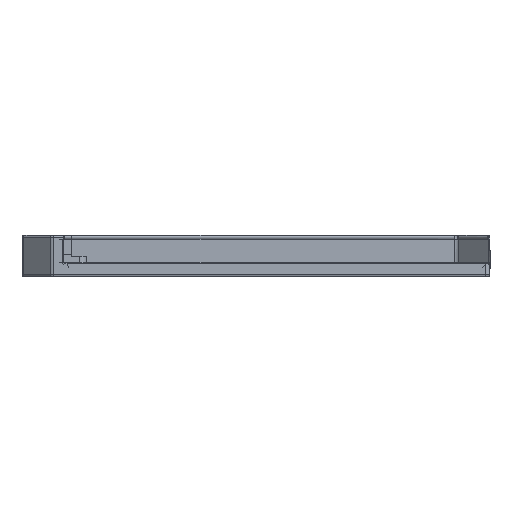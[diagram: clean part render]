
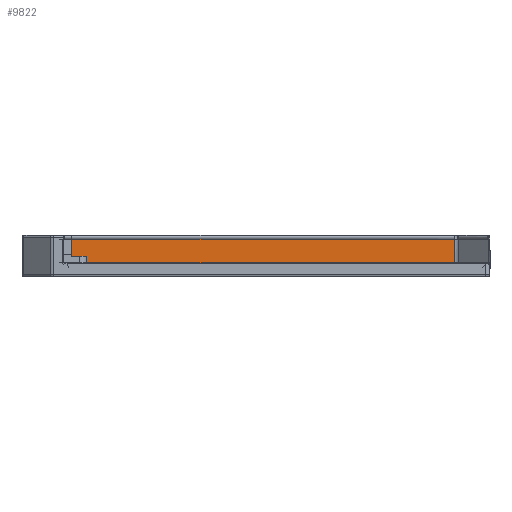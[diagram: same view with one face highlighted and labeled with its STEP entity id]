
A CAD part, left-side view. The second image highlights one B-rep face of the part: STEP entity #9822.
In plain terms, the highlighted planar face has unit normal (-1, 0, 0).
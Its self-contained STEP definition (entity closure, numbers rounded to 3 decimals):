
#2631=CARTESIAN_POINT('',(248.2,8.541,-2.583));
#2644=DIRECTION('',(0.,1.,0.));
#2645=VECTOR('',#2644,92.918);
#2646=CARTESIAN_POINT('',(248.2,8.541,-2.583));
#2647=LINE('',#2646,#2645);
#3066=DIRECTION('',(0.,1.,0.));
#3067=VECTOR('',#3066,92.918);
#3068=CARTESIAN_POINT('',(248.2,8.541,3.));
#3069=LINE('',#3068,#3067);
#3070=DIRECTION('',(0.,0.,1.));
#3071=VECTOR('',#3070,5.583);
#3072=CARTESIAN_POINT('',(248.2,101.459,-2.583));
#3073=LINE('',#3072,#3071);
#3179=DIRECTION('',(0.,0.,1.));
#3180=VECTOR('',#3179,5.583);
#3181=CARTESIAN_POINT('',(248.2,8.541,-2.583));
#3182=LINE('',#3181,#3180);
#5602=VERTEX_POINT('',#2631);
#5603=CARTESIAN_POINT('',(248.2,101.459,-2.583));
#5604=VERTEX_POINT('',#5603);
#5693=CARTESIAN_POINT('',(248.2,8.541,3.));
#5694=CARTESIAN_POINT('',(248.2,101.459,3.));
#5695=VERTEX_POINT('',#5693);
#5696=VERTEX_POINT('',#5694);
#9809=CARTESIAN_POINT('',(248.2,0.,3.));
#9810=DIRECTION('',(1.,0.,0.));
#9811=DIRECTION('',(0.,1.,0.));
#9812=AXIS2_PLACEMENT_3D('',#9809,#9810,#9811);
#9813=PLANE('',#9812);
#9815=ORIENTED_EDGE('',*,*,#9814,.F.);
#9817=ORIENTED_EDGE('',*,*,#9816,.F.);
#9818=ORIENTED_EDGE('',*,*,#9287,.T.);
#9819=ORIENTED_EDGE('',*,*,#9800,.T.);
#9820=EDGE_LOOP('',(#9815,#9817,#9818,#9819));
#9821=FACE_OUTER_BOUND('',#9820,.F.);
#9822=ADVANCED_FACE('',(#9821),#9813,.F.);
#9287=EDGE_CURVE('',#5602,#5604,#2647,.T.);
#9800=EDGE_CURVE('',#5604,#5696,#3073,.T.);
#9814=EDGE_CURVE('',#5695,#5696,#3069,.T.);
#9816=EDGE_CURVE('',#5602,#5695,#3182,.T.);
